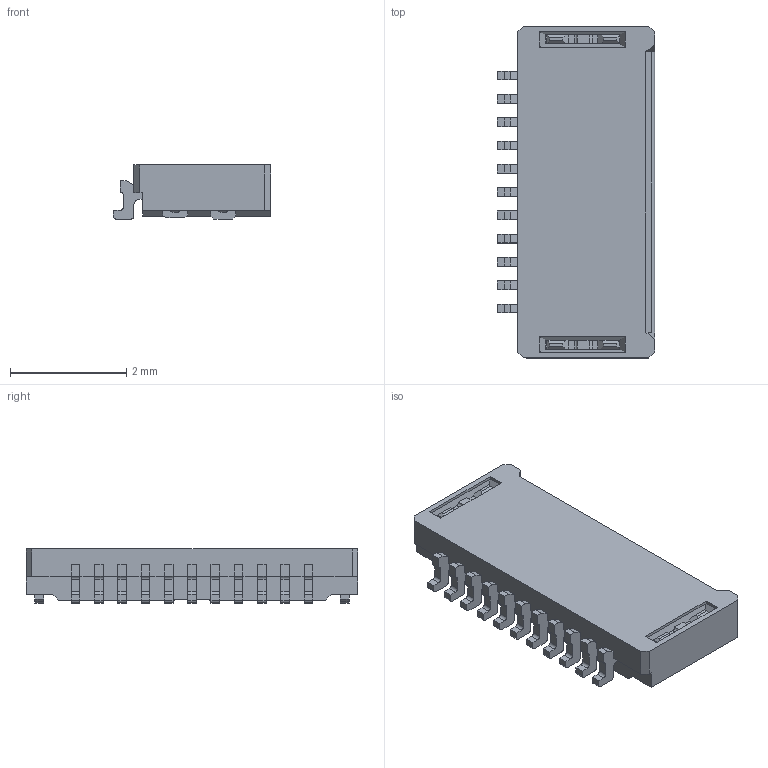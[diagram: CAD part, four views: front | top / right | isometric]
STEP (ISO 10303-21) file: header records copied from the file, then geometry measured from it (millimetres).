
FILE_DESCRIPTION (( 'STEP AP214' ), '1' );
FILE_NAME ('04_6824_611_000_846+.STEP', '2017-07-25T07:26:17', ( 'Asmin' ), ( '' ), 'SwSTEP 2.0', 'SolidWorks 2014', '' );
FILE_SCHEMA (( 'AUTOMOTIVE_DESIGN' ));
Length unit declared in the file: millimetre
Products named in the file (1): 04_6824_611_000_846+
Bounding box: 2.7 x 5.7 x 0.93 mm (x, y, z)
Volume: 8.1 mm3; surface area: 66.6 mm2
Topology: 1 solids, 1 shells, 315 faces, 909 edges, 598 vertices
Faces by surface type: plane 247, cylinder 68
Entity records: 13685 total; most frequent: CARTESIAN_POINT 1829, ORIENTED_EDGE 1818, DIRECTION 1673, EDGE_CURVE 909, VECTOR 773, LINE 773, VERTEX_POINT 598, AXIS2_PLACEMENT_3D 450
